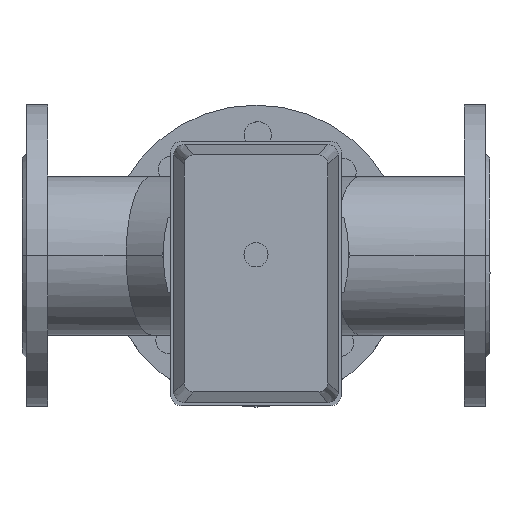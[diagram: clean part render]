
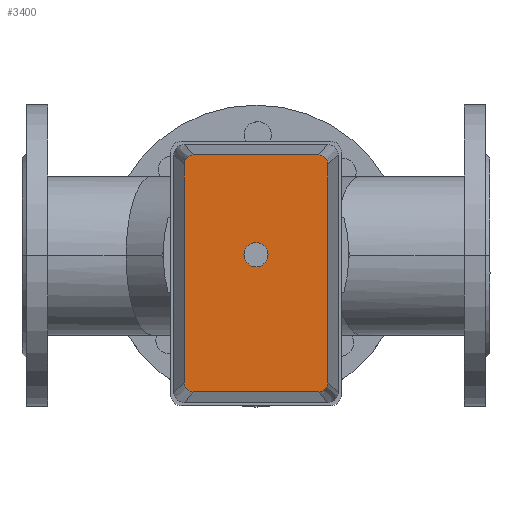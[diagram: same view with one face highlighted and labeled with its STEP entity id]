
A CAD part, top view. The second image highlights one B-rep face of the part: STEP entity #3400.
In plain terms, the highlighted planar face has unit normal (0, 0, 1).
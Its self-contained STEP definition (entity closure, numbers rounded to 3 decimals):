
#307=LINE('',#5787,#512);
#308=LINE('',#5791,#513);
#309=LINE('',#5795,#514);
#310=LINE('',#5799,#515);
#512=VECTOR('',#4750,304.8);
#513=VECTOR('',#4753,304.8);
#514=VECTOR('',#4756,304.8);
#515=VECTOR('',#4759,304.8);
#864=FACE_OUTER_BOUND('',#1101,.T.);
#1101=EDGE_LOOP('',(#2765,#2766,#2767,#2768,#2769,#2770,#2771,#2772));
#1326=CIRCLE('',#3802,6.);
#1327=CIRCLE('',#3803,6.);
#1328=CIRCLE('',#3804,6.);
#1329=CIRCLE('',#3805,6.);
#1604=VERTEX_POINT('',#5785);
#1605=VERTEX_POINT('',#5786);
#1606=VERTEX_POINT('',#5788);
#1607=VERTEX_POINT('',#5790);
#1608=VERTEX_POINT('',#5792);
#1609=VERTEX_POINT('',#5794);
#1610=VERTEX_POINT('',#5796);
#1611=VERTEX_POINT('',#5798);
#2003=EDGE_CURVE('',#1604,#1605,#307,.T.);
#2004=EDGE_CURVE('',#1605,#1606,#1326,.T.);
#2005=EDGE_CURVE('',#1606,#1607,#308,.T.);
#2006=EDGE_CURVE('',#1607,#1608,#1327,.T.);
#2007=EDGE_CURVE('',#1608,#1609,#309,.T.);
#2008=EDGE_CURVE('',#1609,#1610,#1328,.T.);
#2009=EDGE_CURVE('',#1610,#1611,#310,.T.);
#2010=EDGE_CURVE('',#1611,#1604,#1329,.T.);
#2765=ORIENTED_EDGE('',*,*,#2003,.T.);
#2766=ORIENTED_EDGE('',*,*,#2004,.T.);
#2767=ORIENTED_EDGE('',*,*,#2005,.T.);
#2768=ORIENTED_EDGE('',*,*,#2006,.T.);
#2769=ORIENTED_EDGE('',*,*,#2007,.T.);
#2770=ORIENTED_EDGE('',*,*,#2008,.T.);
#2771=ORIENTED_EDGE('',*,*,#2009,.T.);
#2772=ORIENTED_EDGE('',*,*,#2010,.T.);
#3036=PLANE('',#3801);
#3400=ADVANCED_FACE('',(#864),#3036,.T.);
#3801=AXIS2_PLACEMENT_3D('',#5784,#4748,#4749);
#3802=AXIS2_PLACEMENT_3D('',#5789,#4751,#4752);
#3803=AXIS2_PLACEMENT_3D('',#5793,#4754,#4755);
#3804=AXIS2_PLACEMENT_3D('',#5797,#4757,#4758);
#3805=AXIS2_PLACEMENT_3D('',#5800,#4760,#4761);
#4748=DIRECTION('center_axis',(0.,0.,1.));
#4749=DIRECTION('ref_axis',(0.,-1.,0.));
#4750=DIRECTION('',(0.,-1.,0.));
#4751=DIRECTION('center_axis',(0.,0.,1.));
#4752=DIRECTION('ref_axis',(1.,0.,0.));
#4753=DIRECTION('',(1.,0.,0.));
#4754=DIRECTION('center_axis',(0.,0.,1.));
#4755=DIRECTION('ref_axis',(1.,0.,0.));
#4756=DIRECTION('',(0.,1.,0.));
#4757=DIRECTION('center_axis',(0.,0.,1.));
#4758=DIRECTION('ref_axis',(1.,0.,0.));
#4759=DIRECTION('',(-1.,0.,0.));
#4760=DIRECTION('center_axis',(0.,0.,1.));
#4761=DIRECTION('ref_axis',(1.,0.,0.));
#5784=CARTESIAN_POINT('Origin',(-12.5,0.002,360.));
#5785=CARTESIAN_POINT('',(-91.,41.502,360.));
#5786=CARTESIAN_POINT('',(-91.,-41.498,360.));
#5787=CARTESIAN_POINT('',(-91.,-41.498,360.));
#5788=CARTESIAN_POINT('',(-85.,-47.498,360.));
#5789=CARTESIAN_POINT('Origin',(-85.,-41.498,360.));
#5790=CARTESIAN_POINT('',(60.,-47.498,360.));
#5791=CARTESIAN_POINT('',(60.,-47.498,360.));
#5792=CARTESIAN_POINT('',(66.,-41.498,360.));
#5793=CARTESIAN_POINT('Origin',(60.,-41.498,360.));
#5794=CARTESIAN_POINT('',(66.,41.502,360.));
#5795=CARTESIAN_POINT('',(66.,41.502,360.));
#5796=CARTESIAN_POINT('',(60.,47.502,360.));
#5797=CARTESIAN_POINT('Origin',(60.,41.502,360.));
#5798=CARTESIAN_POINT('',(-85.,47.502,360.));
#5799=CARTESIAN_POINT('',(-85.,47.502,360.));
#5800=CARTESIAN_POINT('Origin',(-85.,41.502,360.));
